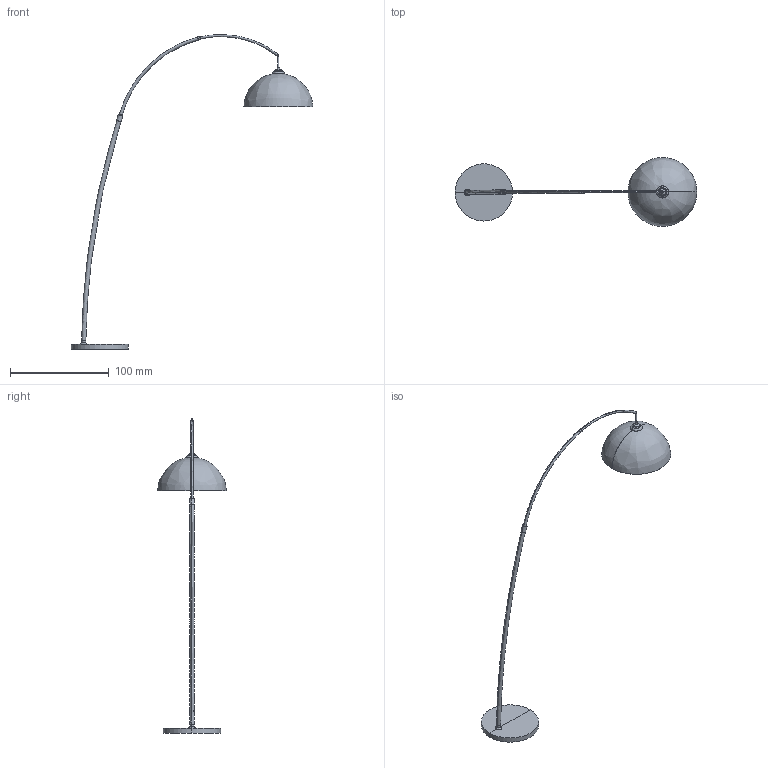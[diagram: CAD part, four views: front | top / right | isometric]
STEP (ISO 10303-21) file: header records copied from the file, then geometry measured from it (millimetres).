
FILE_DESCRIPTION(/* description */ (''),/* implementation_level */ '2;1');
FILE_NAME(/* name */ 'Ventoro Floor Lamp',/* time_stamp */ '2026-05-19T10:31:32+08:00',/* author */ (''),/* organization */ (''),/* preprocessor_version */ 'ST-DEVELOPER v19.2',/* originating_system */ 'Rhino 8.25',/* authorisation */ '');
FILE_SCHEMA (('CONFIG_CONTROL_DESIGN'));
Length unit declared in the file: millimetre
Products named in the file (1): Document
Bounding box: 244.41 x 69.73 x 318.19 mm (x, y, z)
Volume: 23778.6 mm3; surface area: 36963.4 mm2
Topology: 14 solids, 16 shells, 166 faces, 324 edges, 174 vertices
Faces by surface type: bspline 100, plane 42, cylinder 24
Entity records: 6102 total; most frequent: CARTESIAN_POINT 3203, ORIENTED_EDGE 612, DIRECTION 438, EDGE_CURVE 310, AXIS2_PLACEMENT_3D 252, TRIMMED_CURVE 182, CIRCLE 182, VERTEX_POINT 170
